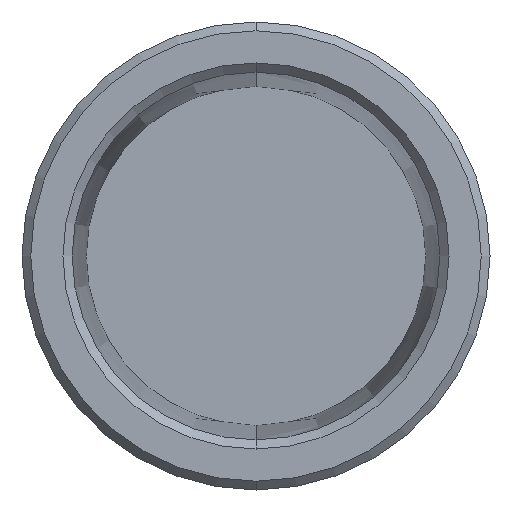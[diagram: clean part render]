
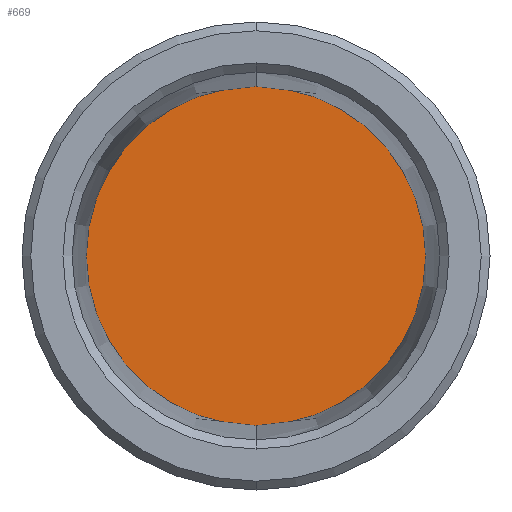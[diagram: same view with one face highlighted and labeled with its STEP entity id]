
A CAD part, front view. The second image highlights one B-rep face of the part: STEP entity #669.
In plain terms, the highlighted planar face has unit normal (0, -1, 0).
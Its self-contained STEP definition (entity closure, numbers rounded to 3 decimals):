
#42 = DIRECTION ( 'NONE',  ( 0., 0., 1. ) ) ;
#57 = ORIENTED_EDGE ( 'NONE', *, *, #87, .T. ) ;
#87 = EDGE_CURVE ( 'NONE', #280, #292, #730, .T. ) ;
#113 = AXIS2_PLACEMENT_3D ( 'NONE', #659, #120, #122 ) ;
#120 = DIRECTION ( 'NONE',  ( 0., -1., 0. ) ) ;
#122 = DIRECTION ( 'NONE',  ( 0., 0., -1. ) ) ;
#130 = EDGE_CURVE ( 'NONE', #292, #280, #173, .T. ) ;
#149 = AXIS2_PLACEMENT_3D ( 'NONE', #214, #576, #42 ) ;
#153 = ORIENTED_EDGE ( 'NONE', *, *, #130, .T. ) ;
#173 = CIRCLE ( 'NONE', #495, 5.8 ) ;
#188 = CARTESIAN_POINT ( 'NONE',  ( 0., 11., -5.8 ) ) ;
#214 = CARTESIAN_POINT ( 'NONE',  ( -5.8, 11., 0. ) ) ;
#236 = DIRECTION ( 'NONE',  ( 0., 0., -1. ) ) ;
#280 = VERTEX_POINT ( 'NONE', #507 ) ;
#292 = VERTEX_POINT ( 'NONE', #188 ) ;
#305 = FACE_OUTER_BOUND ( 'NONE', #515, .T. ) ;
#431 = DIRECTION ( 'NONE',  ( 0., -1., 0. ) ) ;
#468 = PLANE ( 'NONE',  #149 ) ;
#495 = AXIS2_PLACEMENT_3D ( 'NONE', #561, #431, #236 ) ;
#507 = CARTESIAN_POINT ( 'NONE',  ( 0., 11., 5.8 ) ) ;
#515 = EDGE_LOOP ( 'NONE', ( #153, #57 ) ) ;
#561 = CARTESIAN_POINT ( 'NONE',  ( 0., 11., 0. ) ) ;
#576 = DIRECTION ( 'NONE',  ( 0., 1., 0. ) ) ;
#659 = CARTESIAN_POINT ( 'NONE',  ( 0., 11., 0. ) ) ;
#669 = ADVANCED_FACE ( 'NONE', ( #305 ), #468, .F. ) ;
#730 = CIRCLE ( 'NONE', #113, 5.8 ) ;
